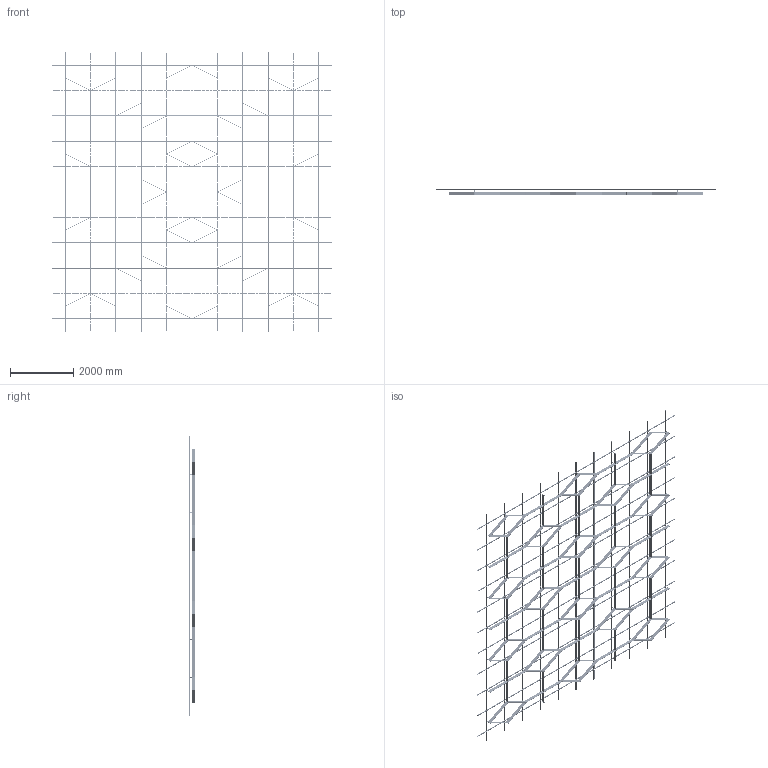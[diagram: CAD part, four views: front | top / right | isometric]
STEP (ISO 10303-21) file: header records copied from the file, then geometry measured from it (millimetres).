
FILE_DESCRIPTION (( 'STEP AP203' ), '1' );
FILE_NAME ('10 ìèäè ñ ïñ.step', '2025-11-26T11:35:33', ( '' ), ( '' ), 'SwSTEP 2.0', 'SolidWorks 2020', '' );
FILE_SCHEMA (( 'CONFIG_CONTROL_DESIGN' ));
Length unit declared in the file: millimetre
Products named in the file (5): Ñèñòåìà â çîíå 8000õ8000; SS.SEMA.2400 - Ñèìà-ïðîôèëü — îáðåçàí 1600; 10 ìèäè ñ ïñ; Var10; SS.SEMA.2400 - Ñèìà-ïðîôèëü
Assembly tree (90 placements, depth 3):
  10 ìèäè ñ ïñ
    Ñèñòåìà â çîíå 8000õ8000
      SS.SEMA.2400 - Ñèìà-ïðîôèëü  x66
      SS.SEMA.2400 - Ñèìà-ïðîôèëü — îáðåçàí 1600  x22
    Var10
Bounding box: 8800 x 205 x 8800 mm (x, y, z)
Volume: 110710334.9 mm3; surface area: 53144599.7 mm2
Topology: 624 solids, 624 shells, 18924 faces, 51620 edges, 33944 vertices
Faces by surface type: cylinder 12650, plane 6274
Entity records: 70687 total; most frequent: CARTESIAN_POINT 15970, DIRECTION 10370, ORIENTED_EDGE 10088, EDGE_CURVE 5044, AXIS2_PLACEMENT_3D 4936, VERTEX_POINT 3352, EDGE_LOOP 2930, ADVANCED_FACE 2768
